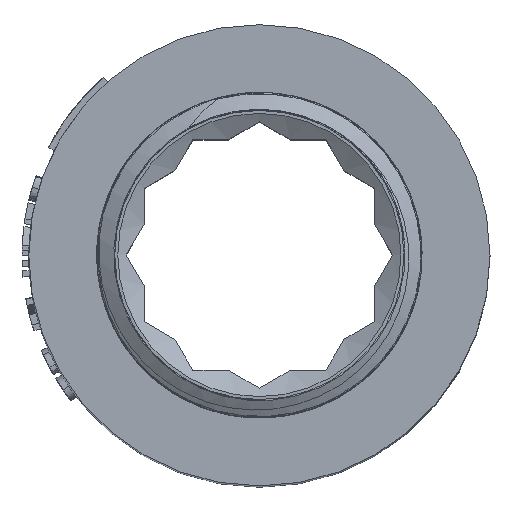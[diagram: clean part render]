
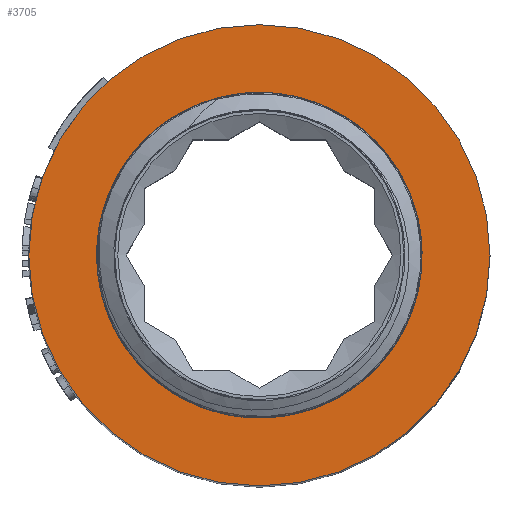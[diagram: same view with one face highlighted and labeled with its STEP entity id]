
A CAD part, top view. The second image highlights one B-rep face of the part: STEP entity #3705.
In plain terms, the highlighted planar face has unit normal (0, 0, 1).
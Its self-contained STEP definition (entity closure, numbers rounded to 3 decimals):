
#85=FACE_BOUND('',#876,.T.);
#479=PLANE('',#3943);
#651=FACE_OUTER_BOUND('',#875,.T.);
#875=EDGE_LOOP('',(#3277,#3278));
#876=EDGE_LOOP('',(#3279,#3280));
#1330=CIRCLE('',#3768,10.72);
#1333=CIRCLE('',#3771,10.72);
#1354=CIRCLE('',#3811,17.1);
#1355=CIRCLE('',#3812,17.1);
#1424=VERTEX_POINT('',#4630);
#1425=VERTEX_POINT('',#4631);
#1472=VERTEX_POINT('',#4878);
#1473=VERTEX_POINT('',#4879);
#1804=EDGE_CURVE('',#1424,#1425,#1330,.T.);
#1808=EDGE_CURVE('',#1425,#1424,#1333,.T.);
#1875=EDGE_CURVE('',#1472,#1473,#1354,.T.);
#1876=EDGE_CURVE('',#1473,#1472,#1355,.T.);
#3277=ORIENTED_EDGE('',*,*,#1875,.T.);
#3278=ORIENTED_EDGE('',*,*,#1876,.T.);
#3279=ORIENTED_EDGE('',*,*,#1804,.F.);
#3280=ORIENTED_EDGE('',*,*,#1808,.F.);
#3705=ADVANCED_FACE('',(#651,#85),#479,.T.);
#3768=AXIS2_PLACEMENT_3D('',#4632,#3989,#3990);
#3771=AXIS2_PLACEMENT_3D('',#4638,#3996,#3997);
#3811=AXIS2_PLACEMENT_3D('',#4880,#4112,#4113);
#3812=AXIS2_PLACEMENT_3D('',#4881,#4114,#4115);
#3943=AXIS2_PLACEMENT_3D('',#7745,#4525,#4526);
#3989=DIRECTION('center_axis',(0.,0.,1.));
#3990=DIRECTION('ref_axis',(1.,0.,0.));
#3996=DIRECTION('center_axis',(0.,0.,1.));
#3997=DIRECTION('ref_axis',(1.,0.,0.));
#4112=DIRECTION('center_axis',(0.,0.,1.));
#4113=DIRECTION('ref_axis',(1.,0.,0.));
#4114=DIRECTION('center_axis',(0.,0.,1.));
#4115=DIRECTION('ref_axis',(1.,0.,0.));
#4525=DIRECTION('center_axis',(0.,0.,1.));
#4526=DIRECTION('ref_axis',(1.,0.,0.));
#4630=CARTESIAN_POINT('',(0.,10.72,-12.));
#4631=CARTESIAN_POINT('',(0.,-10.72,-12.));
#4632=CARTESIAN_POINT('Origin',(0.,0.,-12.));
#4638=CARTESIAN_POINT('Origin',(0.,0.,-12.));
#4878=CARTESIAN_POINT('',(0.,-17.1,-12.));
#4879=CARTESIAN_POINT('',(0.,17.1,-12.));
#4880=CARTESIAN_POINT('Origin',(0.,0.,-12.));
#4881=CARTESIAN_POINT('Origin',(0.,0.,-12.));
#7745=CARTESIAN_POINT('Origin',(0.,-12.065,-12.));
